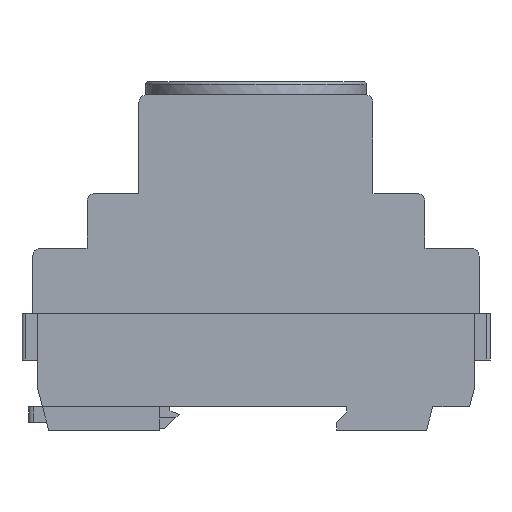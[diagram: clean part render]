
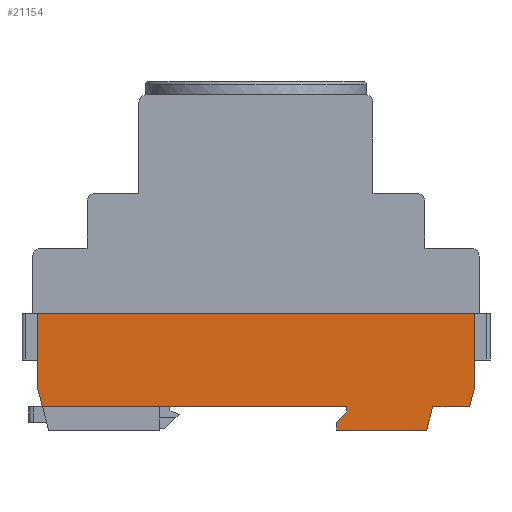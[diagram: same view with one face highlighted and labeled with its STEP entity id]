
A CAD part, front view. The second image highlights one B-rep face of the part: STEP entity #21154.
In plain terms, the highlighted planar face has unit normal (0, -1, 0).
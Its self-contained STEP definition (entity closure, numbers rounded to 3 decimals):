
#15423 = DIRECTION ( 'NONE',  ( -1., 0., 0. ) ) ;
#15424 = VECTOR ( 'NONE', #15423, 1000. ) ;
#15425 = CARTESIAN_POINT ( 'NONE',  ( 34., -22., -18. ) ) ;
#15426 = LINE ( 'NONE', #15425, #15424 ) ;
#17610 = CARTESIAN_POINT ( 'NONE',  ( 41.062, -22., -18. ) ) ;
#17612 = DIRECTION ( 'NONE',  ( -0.259, 0., -0.966 ) ) ;
#17613 = VECTOR ( 'NONE', #17612, 1000. ) ;
#17614 = CARTESIAN_POINT ( 'NONE',  ( 41.062, -22., -18. ) ) ;
#17616 = LINE ( 'NONE', #17614, #17613 ) ;
#17641 = DIRECTION ( 'NONE',  ( 0., 0., -1. ) ) ;
#17642 = DIRECTION ( 'NONE',  ( 0., -1., 0. ) ) ;
#17643 = CARTESIAN_POINT ( 'NONE',  ( -42., -22., -22.5 ) ) ;
#17645 = AXIS2_PLACEMENT_3D ( 'NONE', #17643, #17642, #17641 ) ;
#17649 = PLANE ( 'NONE',  #17645 ) ;
#17656 = FACE_OUTER_BOUND ( 'NONE', #21144, .T. ) ;
#18018 = DIRECTION ( 'NONE',  ( -1., 0., 0. ) ) ;
#18020 = VECTOR ( 'NONE', #18018, 1000. ) ;
#18021 = CARTESIAN_POINT ( 'NONE',  ( -18.5, -22., -18. ) ) ;
#18022 = LINE ( 'NONE', #18021, #18020 ) ;
#18040 = EDGE_CURVE ( 'NONE', #18274, #18041, #30617, .T. ) ;
#18041 = VERTEX_POINT ( 'NONE', #30603 ) ;
#18273 = EDGE_CURVE ( 'NONE', #18330, #18274, #32515, .T. ) ;
#18274 = VERTEX_POINT ( 'NONE', #32590 ) ;
#18296 = EDGE_CURVE ( 'NONE', #18329, #18330, #32791, .T. ) ;
#18329 = VERTEX_POINT ( 'NONE', #33308 ) ;
#18330 = VERTEX_POINT ( 'NONE', #33307 ) ;
#18349 = EDGE_CURVE ( 'NONE', #18041, #18350, #33641, .T. ) ;
#18350 = VERTEX_POINT ( 'NONE', #33653 ) ;
#18374 = VERTEX_POINT ( 'NONE', #33759 ) ;
#18376 = EDGE_CURVE ( 'NONE', #18374, #18329, #33764, .T. ) ;
#18403 = VERTEX_POINT ( 'NONE', #33915 ) ;
#18405 = EDGE_CURVE ( 'NONE', #18403, #18406, #33869, .T. ) ;
#18406 = VERTEX_POINT ( 'NONE', #33864 ) ;
#18610 = VERTEX_POINT ( 'NONE', #41383 ) ;
#18611 = VERTEX_POINT ( 'NONE', #41382 ) ;
#18615 = EDGE_CURVE ( 'NONE', #18610, #18611, #41379, .T. ) ;
#20865 = EDGE_CURVE ( 'NONE', #18611, #23623, #42425, .T. ) ;
#21111 = ORIENTED_EDGE ( 'NONE', *, *, #18405, .F. ) ;
#21112 = ORIENTED_EDGE ( 'NONE', *, *, #23854, .F. ) ;
#21113 = ORIENTED_EDGE ( 'NONE', *, *, #20865, .F. ) ;
#21131 = EDGE_CURVE ( 'NONE', #21201, #18374, #15426, .T. ) ;
#21144 = EDGE_LOOP ( 'NONE', ( #21155, #21146, #21147, #21148, #21149, #21150, #21151, #21152, #21153, #21111, #21112, #21113 ) ) ;
#21146 = ORIENTED_EDGE ( 'NONE', *, *, #21166, .F. ) ;
#21147 = ORIENTED_EDGE ( 'NONE', *, *, #18349, .F. ) ;
#21148 = ORIENTED_EDGE ( 'NONE', *, *, #18040, .F. ) ;
#21149 = ORIENTED_EDGE ( 'NONE', *, *, #18273, .F. ) ;
#21150 = ORIENTED_EDGE ( 'NONE', *, *, #18296, .F. ) ;
#21151 = ORIENTED_EDGE ( 'NONE', *, *, #18376, .F. ) ;
#21152 = ORIENTED_EDGE ( 'NONE', *, *, #21131, .F. ) ;
#21153 = ORIENTED_EDGE ( 'NONE', *, *, #21200, .F. ) ;
#21154 = ADVANCED_FACE ( 'NONE', ( #17656 ), #17649, .T. ) ;
#21155 = ORIENTED_EDGE ( 'NONE', *, *, #18615, .F. ) ;
#21166 = EDGE_CURVE ( 'NONE', #18350, #18610, #18022, .T. ) ;
#21200 = EDGE_CURVE ( 'NONE', #18406, #21201, #17616, .T. ) ;
#21201 = VERTEX_POINT ( 'NONE', #17610 ) ;
#21830 = CARTESIAN_POINT ( 'NONE',  ( -42., -22., 0. ) ) ;
#22380 = DIRECTION ( 'NONE',  ( 1., 0., 0. ) ) ;
#22381 = VECTOR ( 'NONE', #22380, 1000. ) ;
#22382 = CARTESIAN_POINT ( 'NONE',  ( -42., -22., 0. ) ) ;
#22383 = LINE ( 'NONE', #22382, #22381 ) ;
#23623 = VERTEX_POINT ( 'NONE', #21830 ) ;
#23854 = EDGE_CURVE ( 'NONE', #23623, #18403, #22383, .T. ) ;
#30603 = CARTESIAN_POINT ( 'NONE',  ( 17.5, -22., -19. ) ) ;
#30605 = VECTOR ( 'NONE', #30614, 1000. ) ;
#30614 = DIRECTION ( 'NONE',  ( 0.707, 0., 0.707 ) ) ;
#30615 = CARTESIAN_POINT ( 'NONE',  ( 17.5, -22., -19. ) ) ;
#30617 = LINE ( 'NONE', #30615, #30605 ) ;
#32515 = LINE ( 'NONE', #32651, #32649 ) ;
#32590 = CARTESIAN_POINT ( 'NONE',  ( 15.5, -22., -21. ) ) ;
#32648 = DIRECTION ( 'NONE',  ( 0., 0., 1. ) ) ;
#32649 = VECTOR ( 'NONE', #32648, 1000. ) ;
#32651 = CARTESIAN_POINT ( 'NONE',  ( 15.5, -22., -21. ) ) ;
#32791 = LINE ( 'NONE', #32904, #32903 ) ;
#32902 = DIRECTION ( 'NONE',  ( -1., 0., 0. ) ) ;
#32903 = VECTOR ( 'NONE', #32902, 1000. ) ;
#32904 = CARTESIAN_POINT ( 'NONE',  ( 15.5, -22., -22.5 ) ) ;
#33307 = CARTESIAN_POINT ( 'NONE',  ( 15.5, -22., -22.5 ) ) ;
#33308 = CARTESIAN_POINT ( 'NONE',  ( 32.794, -22., -22.5 ) ) ;
#33637 = DIRECTION ( 'NONE',  ( 0., 0., 1. ) ) ;
#33639 = CARTESIAN_POINT ( 'NONE',  ( 17.5, -22., -18. ) ) ;
#33641 = LINE ( 'NONE', #33639, #33654 ) ;
#33653 = CARTESIAN_POINT ( 'NONE',  ( 17.5, -22., -18. ) ) ;
#33654 = VECTOR ( 'NONE', #33637, 1000. ) ;
#33736 = DIRECTION ( 'NONE',  ( -0.259, 0., -0.966 ) ) ;
#33738 = VECTOR ( 'NONE', #33736, 1000. ) ;
#33740 = CARTESIAN_POINT ( 'NONE',  ( 32.794, -22., -22.5 ) ) ;
#33759 = CARTESIAN_POINT ( 'NONE',  ( 34., -22., -18. ) ) ;
#33764 = LINE ( 'NONE', #33740, #33738 ) ;
#33864 = CARTESIAN_POINT ( 'NONE',  ( 42., -22., -14.5 ) ) ;
#33866 = VECTOR ( 'NONE', #33867, 1000. ) ;
#33867 = DIRECTION ( 'NONE',  ( 0., 0., -1. ) ) ;
#33868 = CARTESIAN_POINT ( 'NONE',  ( 42., -22., 0. ) ) ;
#33869 = LINE ( 'NONE', #33868, #33866 ) ;
#33915 = CARTESIAN_POINT ( 'NONE',  ( 42., -22., 0. ) ) ;
#41376 = DIRECTION ( 'NONE',  ( -0.259, 0., 0.966 ) ) ;
#41377 = VECTOR ( 'NONE', #41376, 1000. ) ;
#41378 = CARTESIAN_POINT ( 'NONE',  ( -42., -22., -14.5 ) ) ;
#41379 = LINE ( 'NONE', #41378, #41377 ) ;
#41382 = CARTESIAN_POINT ( 'NONE',  ( -42., -22., -14.5 ) ) ;
#41383 = CARTESIAN_POINT ( 'NONE',  ( -41.062, -22., -18. ) ) ;
#42422 = DIRECTION ( 'NONE',  ( 0., 0., 1. ) ) ;
#42423 = VECTOR ( 'NONE', #42422, 1000. ) ;
#42424 = CARTESIAN_POINT ( 'NONE',  ( -42., -22., 0. ) ) ;
#42425 = LINE ( 'NONE', #42424, #42423 ) ;
